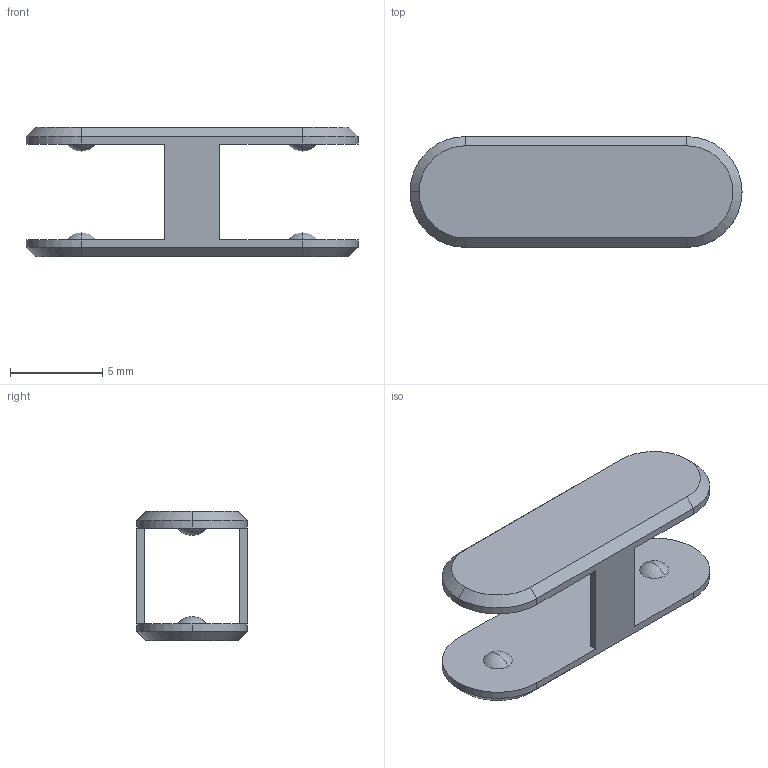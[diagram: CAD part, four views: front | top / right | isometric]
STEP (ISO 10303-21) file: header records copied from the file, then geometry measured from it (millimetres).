
FILE_DESCRIPTION (( 'STEP AP214' ), '1' );
FILE_NAME ('Lower Leg Armor.STEP', '2023-12-23T22:28:02', ( '' ), ( '' ), 'SwSTEP 2.0', 'SolidWorks 2023', '' );
FILE_SCHEMA (( 'AUTOMOTIVE_DESIGN' ));
Length unit declared in the file: millimetre
Products named in the file (1): Lower Leg Armor
Bounding box: 18 x 6 x 7 mm (x, y, z)
Volume: 184.3 mm3; surface area: 520.4 mm2
Topology: 1 solids, 1 shells, 36 faces, 91 edges, 59 vertices
Faces by surface type: plane 16, sphere 8, cone 6, cylinder 6
Entity records: 1117 total; most frequent: DIRECTION 200, CARTESIAN_POINT 187, ORIENTED_EDGE 182, EDGE_CURVE 91, AXIS2_PLACEMENT_3D 72, VERTEX_POINT 59, VECTOR 56, LINE 56
